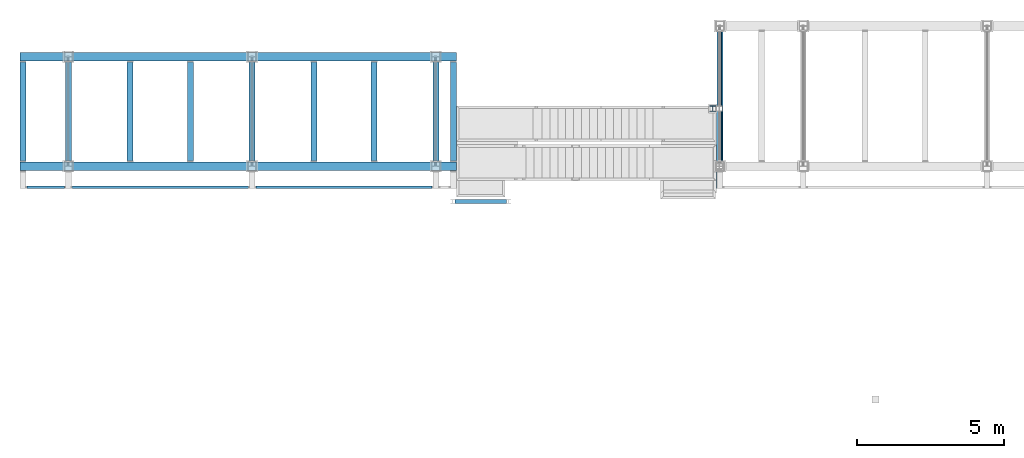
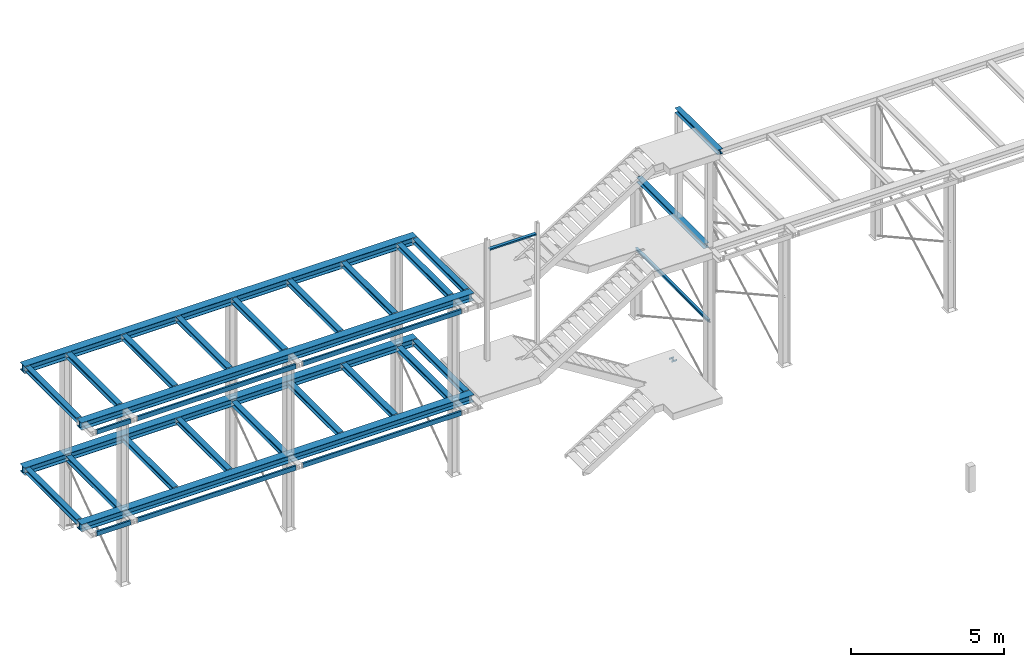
# One storey, part 5 of 24: 32 beams, 1 column.
"""IFC2X3 building model written with IfcOpenShell, lengths in metres."""

from ifc_helpers import new_model, entity, si_unit, converted_unit, derived_unit, frame, origin, place, context, subcontext, project, spatial, polyline, outline, extrude, material, element, save


model = new_model("IFC2X3")

# Units and contexts
model_context = context("Model", 3, precision=1e-05, world=origin())
body_context = subcontext(model_context, "Body", "Model", "MODEL_VIEW")
ifc_project = project(units=[si_unit("LENGTHUNIT", "METRE"), si_unit("AREAUNIT", "SQUARE_METRE"), si_unit("VOLUMEUNIT", "CUBIC_METRE"), si_unit("MASSUNIT", "GRAM", prefix="KILO"), converted_unit("PLANEANGLEUNIT", "DEGREE", entity("IfcPlaneAngleMeasure", 0.0174532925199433), si_unit("PLANEANGLEUNIT", "RADIAN"), dimensions=[0, 0, 0, 0, 0, 0, 0]), derived_unit("THERMALTRANSMITTANCEUNIT", [(si_unit("POWERUNIT", "WATT"), 1), (si_unit("THERMODYNAMICTEMPERATUREUNIT", "KELVIN"), -1), (si_unit("LENGTHUNIT", "METRE"), -2)]), derived_unit("VOLUMETRICFLOWRATEUNIT", [(si_unit("LENGTHUNIT", "METRE"), 3), (converted_unit("TIMEUNIT", "hour", entity("IfcTimeMeasure", 3600.0), si_unit("TIMEUNIT", "SECOND"), dimensions=[0, 0, 1, 0, 0, 0, 0]), -1), (si_unit("LENGTHUNIT", "METRE"), -1)])], contexts=[model_context])

# Site, building, storey
site_placement = place(None, origin())
site = spatial("IfcSite", under=ifc_project, at=site_placement, Name="TWP_Speiseverteilzentrum SBW VZ II", CompositionType="ELEMENT")
building_placement = place(site_placement, origin())
building = spatial("IfcBuilding", under=site, at=building_placement, Name="Speiseverteilzentrum SBW VZ II", CompositionType="ELEMENT")
storey_placement = place(building_placement, frame((0.0, 0.0, 0.6957)))
storey = spatial("IfcBuildingStorey", under=building, at=storey_placement, Name="EG_Technik_FFB", CompositionType="ELEMENT", Elevation=0.6957)

# Column
ifc_material_1 = material(Name="S235")
column_placement = place(storey_placement, frame((69.5187031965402, 89.5299999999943, 0.6647), z_axis=(0.0, 0.0, 1.0), x_axis=(-1.0, 2.44929359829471e-16, 0.0)))
element("IfcColumn", 1, at=column_placement, inside=storey, material=ifc_material_1, Name="Rahmenstiel", context=body_context, shape_type="SweptSolid", body=[
    extrude(outline(polyline([(-0.1, 0.095), (-0.1, 0.085), (-0.00325000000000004, 0.085), (-0.00325000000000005, -0.085), (-0.1, -0.085), (-0.1, -0.095), (0.1, -0.095), (0.1, -0.085), (0.00324999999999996, -0.085), (0.00324999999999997, 0.085), (0.1, 0.085), (0.1, 0.095), (-0.1, 0.095)])), frame((0.1, 0.095, 0.0), z_axis=(0.0, 0.0, 1.0), x_axis=(1.0, 0.0, 0.0)), (0.0, 0.0, 1.0), 0.0713934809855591),
])

# Beams
ifc_material_2 = material(Name="S235")
beam_1_placement = place(storey_placement, frame((69.6637031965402, 87.4792499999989, 3.35), z_axis=(0.0, 0.0, 1.0), x_axis=(1.0, -2.44929359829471e-16, 0.0)))
element("IfcBeam", 2, at=beam_1_placement, inside=storey, material=ifc_material_2, Name="Zwischenriegel", context=body_context, shape_type="SweptSolid", body=[
    extrude(outline(polyline([(-0.05, 0.048), (-0.05, 0.04), (-0.0025, 0.04), (-0.00250000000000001, -0.0399999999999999), (-0.05, -0.0399999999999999), (-0.05, -0.048), (0.05, -0.048), (0.05, -0.0399999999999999), (0.00249999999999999, -0.0399999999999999), (0.0025, 0.04), (0.05, 0.04), (0.05, 0.048), (-0.05, 0.048)])), frame((0.0, 0.0, 0.0), z_axis=(0.0, 1.0, 0.0), x_axis=(-1.0, 0.0, 0.0)), (0.0, 0.0, 1.0), 4.76649999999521),
])
ifc_material_3 = material(Name="S235")
beam_2_placement = place(storey_placement, frame((69.6437031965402, 86.7249999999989, 10.56), z_axis=(0.0, 0.0, 1.0), x_axis=(1.0, -1.22464679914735e-16, 0.0)))
element("IfcBeam", 3, at=beam_2_placement, inside=storey, material=ifc_material_3, Name="Rahmenriegel", context=body_context, shape_type="SweptSolid", body=[
    extrude(outline(polyline([(-0.1, 0.095), (-0.1, 0.085), (-0.00325000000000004, 0.085), (-0.00325000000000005, -0.085), (-0.1, -0.085), (-0.1, -0.095), (0.1, -0.095), (0.1, -0.085), (0.00324999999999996, -0.085), (0.00324999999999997, 0.085), (0.1, 0.085), (0.1, 0.095), (-0.1, 0.095)])), frame((0.0, 0.0, 0.0), z_axis=(0.0, 1.0, 0.0), x_axis=(-1.0, 0.0, 0.0)), (0.0, 0.0, 1.0), 2.80499999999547),
])
ifc_material_4 = material(Name="S235")
beam_3_placement = place(storey_placement, frame((55.85, 87.6549999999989, 3.535), z_axis=(0.0, 0.0, 1.0), x_axis=(1.0, -1.22464679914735e-16, 0.0)))
element("IfcBeam", 4, at=beam_3_placement, inside=storey, material=ifc_material_4, Name="Nebenträger", context=body_context, shape_type="SweptSolid", body=[
    extrude(outline(polyline([(-0.1, 0.095), (-0.1, 0.085), (-0.00325000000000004, 0.085), (-0.00325000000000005, -0.085), (-0.1, -0.085), (-0.1, -0.095), (0.1, -0.095), (0.1, -0.085), (0.00324999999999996, -0.085), (0.00324999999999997, 0.085), (0.1, 0.085), (0.1, 0.095), (-0.1, 0.095)])), frame((0.0, 0.0, 0.0), z_axis=(0.0, 1.0, 0.0), x_axis=(-1.0, 0.0, 0.0)), (0.0, 0.0, 1.0), 3.36499999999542),
])
ifc_material_5 = material(Name="S235")
beam_4_placement = place(storey_placement, frame((55.85, 87.6549999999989, 7.595), z_axis=(0.0, 0.0, 1.0), x_axis=(1.0, -1.22464679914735e-16, 0.0)))
element("IfcBeam", 5, at=beam_4_placement, inside=storey, material=ifc_material_5, Name="Nebenträger", context=body_context, shape_type="SweptSolid", body=[
    extrude(outline(polyline([(-0.1, 0.095), (-0.1, 0.085), (-0.00325000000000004, 0.085), (-0.00325000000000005, -0.085), (-0.1, -0.085), (-0.1, -0.095), (0.1, -0.095), (0.1, -0.085), (0.00324999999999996, -0.085), (0.00324999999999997, 0.085), (0.1, 0.085), (0.1, 0.095), (-0.1, 0.095)])), frame((0.0, 0.0, 0.0), z_axis=(0.0, 1.0, 0.0), x_axis=(-1.0, 0.0, 0.0)), (0.0, 0.0, 1.0), 3.36499999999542),
])
ifc_material_6 = material(Name="S235")
beam_5_placement = place(storey_placement, frame((57.9, 87.6549999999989, 3.535), z_axis=(0.0, 0.0, 1.0), x_axis=(1.0, -1.22464679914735e-16, 0.0)))
element("IfcBeam", 6, at=beam_5_placement, inside=storey, material=ifc_material_6, Name="Nebenträger", context=body_context, shape_type="SweptSolid", body=[
    extrude(outline(polyline([(-0.1, 0.095), (-0.1, 0.085), (-0.00325000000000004, 0.085), (-0.00325000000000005, -0.085), (-0.1, -0.085), (-0.1, -0.095), (0.1, -0.095), (0.1, -0.085), (0.00324999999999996, -0.085), (0.00324999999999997, 0.085), (0.1, 0.085), (0.1, 0.095), (-0.1, 0.095)])), frame((0.0, 0.0, 0.0), z_axis=(0.0, 1.0, 0.0), x_axis=(-1.0, 0.0, 0.0)), (0.0, 0.0, 1.0), 3.36499999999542),
])
ifc_material_7 = material(Name="S235")
beam_6_placement = place(storey_placement, frame((57.9, 87.6549999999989, 7.595), z_axis=(0.0, 0.0, 1.0), x_axis=(1.0, -1.22464679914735e-16, 0.0)))
element("IfcBeam", 7, at=beam_6_placement, inside=storey, material=ifc_material_7, Name="Nebenträger", context=body_context, shape_type="SweptSolid", body=[
    extrude(outline(polyline([(-0.1, 0.095), (-0.1, 0.085), (-0.00325000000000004, 0.085), (-0.00325000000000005, -0.085), (-0.1, -0.085), (-0.1, -0.095), (0.1, -0.095), (0.1, -0.085), (0.00324999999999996, -0.085), (0.00324999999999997, 0.085), (0.1, 0.085), (0.1, 0.095), (-0.1, 0.095)])), frame((0.0, 0.0, 0.0), z_axis=(0.0, 1.0, 0.0), x_axis=(-1.0, 0.0, 0.0)), (0.0, 0.0, 1.0), 3.36499999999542),
])
ifc_material_8 = material(Name="S235")
beam_7_placement = place(storey_placement, frame((49.6, 87.6549999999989, 3.535), z_axis=(0.0, 0.0, 1.0), x_axis=(1.0, -1.22464679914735e-16, 0.0)))
element("IfcBeam", 8, at=beam_7_placement, inside=storey, material=ifc_material_8, Name="Nebenträger", context=body_context, shape_type="SweptSolid", body=[
    extrude(outline(polyline([(-0.1, 0.095), (-0.1, 0.085), (-0.00325000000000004, 0.085), (-0.00325000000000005, -0.085), (-0.1, -0.085), (-0.1, -0.095), (0.1, -0.095), (0.1, -0.085), (0.00324999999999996, -0.085), (0.00324999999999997, 0.085), (0.1, 0.085), (0.1, 0.095), (-0.1, 0.095)])), frame((0.0, 0.0, 0.0), z_axis=(0.0, 1.0, 0.0), x_axis=(-1.0, 0.0, 0.0)), (0.0, 0.0, 1.0), 3.36499999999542),
])
ifc_material_9 = material(Name="S235")
beam_8_placement = place(storey_placement, frame((49.6, 87.6549999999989, 7.595), z_axis=(0.0, 0.0, 1.0), x_axis=(1.0, -1.22464679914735e-16, 0.0)))
element("IfcBeam", 9, at=beam_8_placement, inside=storey, material=ifc_material_9, Name="Nebenträger", context=body_context, shape_type="SweptSolid", body=[
    extrude(outline(polyline([(-0.1, 0.095), (-0.1, 0.085), (-0.00325000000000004, 0.085), (-0.00325000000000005, -0.085), (-0.1, -0.085), (-0.1, -0.095), (0.1, -0.095), (0.1, -0.085), (0.00324999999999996, -0.085), (0.00324999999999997, 0.085), (0.1, 0.085), (0.1, 0.095), (-0.1, 0.095)])), frame((0.0, 0.0, 0.0), z_axis=(0.0, 1.0, 0.0), x_axis=(-1.0, 0.0, 0.0)), (0.0, 0.0, 1.0), 3.36499999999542),
])
ifc_material_10 = material(Name="S235")
beam_9_placement = place(storey_placement, frame((51.65, 87.6549999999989, 3.535), z_axis=(0.0, 0.0, 1.0), x_axis=(1.0, -1.22464679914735e-16, 0.0)))
element("IfcBeam", 10, at=beam_9_placement, inside=storey, material=ifc_material_10, Name="Nebenträger", context=body_context, shape_type="SweptSolid", body=[
    extrude(outline(polyline([(-0.1, 0.095), (-0.1, 0.085), (-0.00325000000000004, 0.085), (-0.00325000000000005, -0.085), (-0.1, -0.085), (-0.1, -0.095), (0.1, -0.095), (0.1, -0.085), (0.00324999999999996, -0.085), (0.00324999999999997, 0.085), (0.1, 0.085), (0.1, 0.095), (-0.1, 0.095)])), frame((0.0, 0.0, 0.0), z_axis=(0.0, 1.0, 0.0), x_axis=(-1.0, 0.0, 0.0)), (0.0, 0.0, 1.0), 3.36499999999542),
])
ifc_material_11 = material(Name="S235")
beam_10_placement = place(storey_placement, frame((51.65, 87.6549999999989, 7.595), z_axis=(0.0, 0.0, 1.0), x_axis=(1.0, -1.22464679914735e-16, 0.0)))
element("IfcBeam", 11, at=beam_10_placement, inside=storey, material=ifc_material_11, Name="Nebenträger", context=body_context, shape_type="SweptSolid", body=[
    extrude(outline(polyline([(-0.1, 0.095), (-0.1, 0.085), (-0.00325000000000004, 0.085), (-0.00325000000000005, -0.085), (-0.1, -0.085), (-0.1, -0.095), (0.1, -0.095), (0.1, -0.085), (0.00324999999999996, -0.085), (0.00324999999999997, 0.085), (0.1, 0.085), (0.1, 0.095), (-0.1, 0.095)])), frame((0.0, 0.0, 0.0), z_axis=(0.0, 1.0, 0.0), x_axis=(-1.0, 0.0, 0.0)), (0.0, 0.0, 1.0), 3.36499999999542),
])
ifc_material_12 = material(Name="S235")
beam_11_placement = place(storey_placement, frame((53.62, 86.7448924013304, 7.6), z_axis=(0.0, 0.0, 1.0), x_axis=(0.0, 1.0, 0.0)))
element("IfcBeam", 12, at=beam_11_placement, inside=storey, material=ifc_material_12, Name="Nebenträger", context=body_context, shape_type="SweptSolid", body=[
    extrude(outline(polyline([(0.0198924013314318, -0.0899999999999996), (0.0198924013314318, 0.0900000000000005), (-0.0501075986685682, 0.0900000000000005), (-0.0501075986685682, 0.0814800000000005), (0.0118924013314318, 0.0765200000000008), (0.0118924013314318, -0.0765199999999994), (-0.0501075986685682, -0.0814799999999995), (-0.0501075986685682, -0.0899999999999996), (0.0198924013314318, -0.0899999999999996)])), frame((0.0, 0.0, 0.0), z_axis=(0.0, 1.0, 0.0), x_axis=(-1.0, 0.0, 0.0)), (0.0, 0.0, 1.0), 5.98999999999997),
])
ifc_material_13 = material(Name="S235")
beam_12_placement = place(storey_placement, frame((53.62, 86.7448924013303, 3.54), z_axis=(0.0, 0.0, 1.0), x_axis=(0.0, 1.0, 0.0)))
element("IfcBeam", 13, at=beam_12_placement, inside=storey, material=ifc_material_13, Name="Nebenträger", context=body_context, shape_type="SweptSolid", body=[
    extrude(outline(polyline([(0.0198924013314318, -0.0899999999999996), (0.0198924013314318, 0.0900000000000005), (-0.0501075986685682, 0.0900000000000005), (-0.0501075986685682, 0.0814800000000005), (0.0118924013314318, 0.0765200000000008), (0.0118924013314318, -0.0765199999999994), (-0.0501075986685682, -0.0814799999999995), (-0.0501075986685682, -0.0899999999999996), (0.0198924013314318, -0.0899999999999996)])), frame((0.0, 0.0, 0.0), z_axis=(0.0, 1.0, 0.0), x_axis=(-1.0, 0.0, 0.0)), (0.0, 0.0, 1.0), 5.98999999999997),
])
ifc_material_14 = material(Name="S235")
beam_13_placement = place(storey_placement, frame((59.8699999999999, 86.7448924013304, 7.6), z_axis=(0.0, 0.0, 1.0), x_axis=(0.0, 1.0, 0.0)))
element("IfcBeam", 14, at=beam_13_placement, inside=storey, material=ifc_material_14, Name="Nebenträger", context=body_context, shape_type="SweptSolid", body=[
    extrude(outline(polyline([(0.0198924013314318, -0.0899999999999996), (0.0198924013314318, 0.0900000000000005), (-0.0501075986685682, 0.0900000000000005), (-0.0501075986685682, 0.0814800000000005), (0.0118924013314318, 0.0765200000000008), (0.0118924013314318, -0.0765199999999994), (-0.0501075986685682, -0.0814799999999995), (-0.0501075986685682, -0.0899999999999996), (0.0198924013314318, -0.0899999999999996)])), frame((0.0, 0.0, 0.0), z_axis=(0.0, 1.0, 0.0), x_axis=(-1.0, 0.0, 0.0)), (0.0, 0.0, 1.0), 5.98999999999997),
])
ifc_material_15 = material(Name="S235")
beam_14_placement = place(storey_placement, frame((59.8699999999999, 86.7448924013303, 3.54), z_axis=(0.0, 0.0, 1.0), x_axis=(0.0, 1.0, 0.0)))
element("IfcBeam", 15, at=beam_14_placement, inside=storey, material=ifc_material_15, Name="Nebenträger", context=body_context, shape_type="SweptSolid", body=[
    extrude(outline(polyline([(0.0198924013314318, -0.0899999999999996), (0.0198924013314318, 0.0900000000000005), (-0.0501075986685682, 0.0900000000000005), (-0.0501075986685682, 0.0814800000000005), (0.0118924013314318, 0.0765200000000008), (0.0118924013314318, -0.0765199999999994), (-0.0501075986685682, -0.0814799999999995), (-0.0501075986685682, -0.0899999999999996), (0.0198924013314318, -0.0899999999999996)])), frame((0.0, 0.0, 0.0), z_axis=(0.0, 1.0, 0.0), x_axis=(-1.0, 0.0, 0.0)), (0.0, 0.0, 1.0), 5.98999999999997),
])
ifc_material_16 = material(Name="S235")
beam_15_placement = place(storey_placement, frame((45.855, 91.1999999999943, 7.545), z_axis=(0.0, 0.0, 1.0), x_axis=(-1.22464679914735e-16, -1.0, 0.0)))
element("IfcBeam", 16, at=beam_15_placement, inside=storey, material=ifc_material_16, Name="Rahmenriegel", context=body_context, shape_type="SweptSolid", body=[
    extrude(outline(polyline([(-0.15, 0.145), (-0.15, 0.131), (-0.00424999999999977, 0.131), (-0.00424999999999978, -0.131), (-0.15, -0.131), (-0.15, -0.145), (0.15, -0.145), (0.15, -0.131), (0.00425000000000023, -0.131), (0.00425000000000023, 0.131), (0.15, 0.131), (0.15, 0.145), (-0.15, 0.145)])), frame((0.0, 0.0, 0.0), z_axis=(0.0, 1.0, 0.0), x_axis=(-1.0, 0.0, 0.0)), (0.0, 0.0, 1.0), 14.84),
])
ifc_material_17 = material(Name="S235")
beam_16_placement = place(storey_placement, frame((45.855, 87.4749999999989, 7.545), z_axis=(0.0, 0.0, 1.0), x_axis=(-1.22464679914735e-16, -1.0, 0.0)))
element("IfcBeam", 17, at=beam_16_placement, inside=storey, material=ifc_material_17, Name="Rahmenriegel", context=body_context, shape_type="SweptSolid", body=[
    extrude(outline(polyline([(-0.15, 0.145), (-0.15, 0.131), (-0.00424999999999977, 0.131), (-0.00424999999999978, -0.131), (-0.15, -0.131), (-0.15, -0.145), (0.15, -0.145), (0.15, -0.131), (0.00425000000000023, -0.131), (0.00425000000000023, 0.131), (0.15, 0.131), (0.15, 0.145), (-0.15, 0.145)])), frame((0.0, 0.0, 0.0), z_axis=(0.0, 1.0, 0.0), x_axis=(-1.0, 0.0, 0.0)), (0.0, 0.0, 1.0), 14.84),
])
ifc_material_18 = material(Name="S235")
beam_17_placement = place(storey_placement, frame((45.855, 87.4749999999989, 3.485), z_axis=(0.0, 0.0, 1.0), x_axis=(-1.22464679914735e-16, -1.0, 0.0)))
element("IfcBeam", 18, at=beam_17_placement, inside=storey, material=ifc_material_18, Name="Rahmenriegel", context=body_context, shape_type="SweptSolid", body=[
    extrude(outline(polyline([(-0.15, 0.145), (-0.15, 0.131), (-0.00424999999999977, 0.131), (-0.00424999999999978, -0.131), (-0.15, -0.131), (-0.15, -0.145), (0.15, -0.145), (0.15, -0.131), (0.00425000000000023, -0.131), (0.00425000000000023, 0.131), (0.15, 0.131), (0.15, 0.145), (-0.15, 0.145)])), frame((0.0, 0.0, 0.0), z_axis=(0.0, 1.0, 0.0), x_axis=(-1.0, 0.0, 0.0)), (0.0, 0.0, 1.0), 14.84),
])
ifc_material_19 = material(Name="S235")
beam_18_placement = place(storey_placement, frame((45.855, 91.1999999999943, 3.485), z_axis=(0.0, 0.0, 1.0), x_axis=(-1.22464679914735e-16, -1.0, 0.0)))
element("IfcBeam", 19, at=beam_18_placement, inside=storey, material=ifc_material_19, Name="Rahmenriegel", context=body_context, shape_type="SweptSolid", body=[
    extrude(outline(polyline([(-0.15, 0.145), (-0.15, 0.131), (-0.00424999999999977, 0.131), (-0.00424999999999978, -0.131), (-0.15, -0.131), (-0.15, -0.145), (0.15, -0.145), (0.15, -0.131), (0.00425000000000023, -0.131), (0.00425000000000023, 0.131), (0.15, 0.131), (0.15, 0.145), (-0.15, 0.145)])), frame((0.0, 0.0, 0.0), z_axis=(0.0, 1.0, 0.0), x_axis=(-1.0, 0.0, 0.0)), (0.0, 0.0, 1.0), 14.84),
])
ifc_material_20 = material(Name="S235")
beam_19_placement = place(storey_placement, frame((60.0, 87.6549999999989, 7.595), z_axis=(0.0, 0.0, 1.0), x_axis=(1.0, -2.44929359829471e-16, 0.0)))
element("IfcBeam", 20, at=beam_19_placement, inside=storey, material=ifc_material_20, Name="Rahmenriegel", context=body_context, shape_type="SweptSolid", body=[
    extrude(outline(polyline([(-0.1, 0.095), (-0.1, 0.085), (-0.00325000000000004, 0.085), (-0.00325000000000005, -0.085), (-0.1, -0.085), (-0.1, -0.095), (0.1, -0.095), (0.1, -0.085), (0.00324999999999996, -0.085), (0.00324999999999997, 0.085), (0.1, 0.085), (0.1, 0.095), (-0.1, 0.095)])), frame((0.0, 0.0, 0.0), z_axis=(0.0, 1.0, 0.0), x_axis=(-1.0, 0.0, 0.0)), (0.0, 0.0, 1.0), 3.36499999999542),
])
ifc_material_21 = material(Name="S235")
beam_20_placement = place(storey_placement, frame((60.0, 87.6549999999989, 3.485), z_axis=(0.0, 0.0, 1.0), x_axis=(1.0, -2.44929359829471e-16, 0.0)))
element("IfcBeam", 21, at=beam_20_placement, inside=storey, material=ifc_material_21, Name="Rahmenriegel", context=body_context, shape_type="SweptSolid", body=[
    extrude(outline(polyline([(-0.1, 0.095), (-0.1, 0.085), (-0.00325000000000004, 0.085), (-0.00325000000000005, -0.085), (-0.1, -0.085), (-0.1, -0.095), (0.1, -0.095), (0.1, -0.085), (0.00324999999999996, -0.085), (0.00324999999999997, 0.085), (0.1, 0.085), (0.1, 0.095), (-0.1, 0.095)])), frame((0.0, 0.0, 0.0), z_axis=(0.0, 1.0, 0.0), x_axis=(-1.0, 0.0, 0.0)), (0.0, 0.0, 1.0), 3.36499999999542),
])
ifc_material_22 = material(Name="S235")
beam_21_placement = place(storey_placement, frame((53.75, 87.6549999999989, 7.595), z_axis=(0.0, 0.0, 1.0), x_axis=(1.0, -2.44929359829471e-16, 0.0)))
element("IfcBeam", 22, at=beam_21_placement, inside=storey, material=ifc_material_22, Name="Rahmenriegel", context=body_context, shape_type="SweptSolid", body=[
    extrude(outline(polyline([(-0.1, 0.095), (-0.1, 0.085), (-0.00325000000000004, 0.085), (-0.00325000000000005, -0.085), (-0.1, -0.085), (-0.1, -0.095), (0.1, -0.095), (0.1, -0.085), (0.00324999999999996, -0.085), (0.00324999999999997, 0.085), (0.1, 0.085), (0.1, 0.095), (-0.1, 0.095)])), frame((0.0, 0.0, 0.0), z_axis=(0.0, 1.0, 0.0), x_axis=(-1.0, 0.0, 0.0)), (0.0, 0.0, 1.0), 3.36499999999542),
])
ifc_material_23 = material(Name="S235")
beam_22_placement = place(storey_placement, frame((53.75, 87.6549999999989, 3.485), z_axis=(0.0, 0.0, 1.0), x_axis=(1.0, -2.44929359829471e-16, 0.0)))
element("IfcBeam", 23, at=beam_22_placement, inside=storey, material=ifc_material_23, Name="Rahmenriegel", context=body_context, shape_type="SweptSolid", body=[
    extrude(outline(polyline([(-0.1, 0.095), (-0.1, 0.085), (-0.00325000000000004, 0.085), (-0.00325000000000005, -0.085), (-0.1, -0.085), (-0.1, -0.095), (0.1, -0.095), (0.1, -0.085), (0.00324999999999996, -0.085), (0.00324999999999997, 0.085), (0.1, 0.085), (0.1, 0.095), (-0.1, 0.095)])), frame((0.0, 0.0, 0.0), z_axis=(0.0, 1.0, 0.0), x_axis=(-1.0, 0.0, 0.0)), (0.0, 0.0, 1.0), 3.36499999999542),
])
ifc_material_24 = material(Name="S235")
beam_23_placement = place(storey_placement, frame((47.5, 87.6549999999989, 7.595), z_axis=(0.0, 0.0, 1.0), x_axis=(1.0, -2.44929359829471e-16, 0.0)))
element("IfcBeam", 24, at=beam_23_placement, inside=storey, material=ifc_material_24, Name="Rahmenriegel", context=body_context, shape_type="SweptSolid", body=[
    extrude(outline(polyline([(-0.1, 0.095), (-0.1, 0.085), (-0.00325000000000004, 0.085), (-0.00325000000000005, -0.085), (-0.1, -0.085), (-0.1, -0.095), (0.1, -0.095), (0.1, -0.085), (0.00324999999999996, -0.085), (0.00324999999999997, 0.085), (0.1, 0.085), (0.1, 0.095), (-0.1, 0.095)])), frame((0.0, 0.0, 0.0), z_axis=(0.0, 1.0, 0.0), x_axis=(-1.0, 0.0, 0.0)), (0.0, 0.0, 1.0), 3.36499999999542),
])
ifc_material_25 = material(Name="S235")
beam_24_placement = place(storey_placement, frame((47.5, 87.6549999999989, 3.485), z_axis=(0.0, 0.0, 1.0), x_axis=(1.0, -2.44929359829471e-16, 0.0)))
element("IfcBeam", 25, at=beam_24_placement, inside=storey, material=ifc_material_25, Name="Rahmenriegel", context=body_context, shape_type="SweptSolid", body=[
    extrude(outline(polyline([(-0.1, 0.095), (-0.1, 0.085), (-0.00325000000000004, 0.085), (-0.00325000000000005, -0.085), (-0.1, -0.085), (-0.1, -0.095), (0.1, -0.095), (0.1, -0.085), (0.00324999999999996, -0.085), (0.00324999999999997, 0.085), (0.1, 0.085), (0.1, 0.095), (-0.1, 0.095)])), frame((0.0, 0.0, 0.0), z_axis=(0.0, 1.0, 0.0), x_axis=(-1.0, 0.0, 0.0)), (0.0, 0.0, 1.0), 3.36499999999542),
])
ifc_material_26 = material(Name="S235")
beam_25_placement = place(storey_placement, frame((60.5949999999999, 87.6549999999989, 3.535), z_axis=(0.0, 0.0, 1.0), x_axis=(1.0, -1.22464679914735e-16, 0.0)))
element("IfcBeam", 26, at=beam_25_placement, inside=storey, material=ifc_material_26, Name="Nebenträger", context=body_context, shape_type="SweptSolid", body=[
    extrude(outline(polyline([(-0.1, 0.095), (-0.1, 0.085), (-0.00325000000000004, 0.085), (-0.00325000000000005, -0.085), (-0.1, -0.085), (-0.1, -0.095), (0.1, -0.095), (0.1, -0.085), (0.00324999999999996, -0.085), (0.00324999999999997, 0.085), (0.1, 0.085), (0.1, 0.095), (-0.1, 0.095)])), frame((0.0, 0.0, 0.0), z_axis=(0.0, 1.0, 0.0), x_axis=(-1.0, 0.0, 0.0)), (0.0, 0.0, 1.0), 3.36499999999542),
])
ifc_material_27 = material(Name="S235")
beam_26_placement = place(storey_placement, frame((60.5949999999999, 87.6549999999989, 7.595), z_axis=(0.0, 0.0, 1.0), x_axis=(1.0, -1.22464679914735e-16, 0.0)))
element("IfcBeam", 27, at=beam_26_placement, inside=storey, material=ifc_material_27, Name="Nebenträger", context=body_context, shape_type="SweptSolid", body=[
    extrude(outline(polyline([(-0.1, 0.095), (-0.1, 0.085), (-0.00325000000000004, 0.085), (-0.00325000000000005, -0.085), (-0.1, -0.085), (-0.1, -0.095), (0.1, -0.095), (0.1, -0.085), (0.00324999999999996, -0.085), (0.00324999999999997, 0.085), (0.1, 0.085), (0.1, 0.095), (-0.1, 0.095)])), frame((0.0, 0.0, 0.0), z_axis=(0.0, 1.0, 0.0), x_axis=(-1.0, 0.0, 0.0)), (0.0, 0.0, 1.0), 3.36499999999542),
])
ifc_material_28 = material(Name="S235")
beam_27_placement = place(storey_placement, frame((45.955, 87.6549999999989, 3.535), z_axis=(0.0, 0.0, 1.0), x_axis=(1.0, -1.22464679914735e-16, 0.0)))
element("IfcBeam", 28, at=beam_27_placement, inside=storey, material=ifc_material_28, Name="Nebenträger", context=body_context, shape_type="SweptSolid", body=[
    extrude(outline(polyline([(-0.1, 0.095), (-0.1, 0.085), (-0.00325000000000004, 0.085), (-0.00325000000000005, -0.085), (-0.1, -0.085), (-0.1, -0.095), (0.1, -0.095), (0.1, -0.085), (0.00324999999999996, -0.085), (0.00324999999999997, 0.085), (0.1, 0.085), (0.1, 0.095), (-0.1, 0.095)])), frame((0.0, 0.0, 0.0), z_axis=(0.0, 1.0, 0.0), x_axis=(-1.0, 0.0, 0.0)), (0.0, 0.0, 1.0), 3.36499999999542),
])
ifc_material_29 = material(Name="S235")
beam_28_placement = place(storey_placement, frame((45.955, 87.6549999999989, 7.595), z_axis=(0.0, 0.0, 1.0), x_axis=(1.0, -1.22464679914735e-16, 0.0)))
element("IfcBeam", 29, at=beam_28_placement, inside=storey, material=ifc_material_29, Name="Nebenträger", context=body_context, shape_type="SweptSolid", body=[
    extrude(outline(polyline([(-0.1, 0.095), (-0.1, 0.085), (-0.00325000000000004, 0.085), (-0.00325000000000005, -0.085), (-0.1, -0.085), (-0.1, -0.095), (0.1, -0.095), (0.1, -0.085), (0.00324999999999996, -0.085), (0.00324999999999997, 0.085), (0.1, 0.085), (0.1, 0.095), (-0.1, 0.095)])), frame((0.0, 0.0, 0.0), z_axis=(0.0, 1.0, 0.0), x_axis=(-1.0, 0.0, 0.0)), (0.0, 0.0, 1.0), 3.36499999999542),
])
ifc_material_30 = material(Name="S235")
beam_29_placement = place(storey_placement, frame((47.37, 86.7448924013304, 7.6), z_axis=(0.0, 0.0, 1.0), x_axis=(0.0, 1.0, 0.0)))
element("IfcBeam", 30, at=beam_29_placement, inside=storey, material=ifc_material_30, Name="Nebenträger", context=body_context, shape_type="SweptSolid", body=[
    extrude(outline(polyline([(0.0198924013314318, -0.0899999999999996), (0.0198924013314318, 0.0900000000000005), (-0.0501075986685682, 0.0900000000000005), (-0.0501075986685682, 0.0814800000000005), (0.0118924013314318, 0.0765200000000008), (0.0118924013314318, -0.0765199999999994), (-0.0501075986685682, -0.0814799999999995), (-0.0501075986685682, -0.0899999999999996), (0.0198924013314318, -0.0899999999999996)])), frame((0.0, 0.0, 0.0), z_axis=(0.0, 1.0, 0.0), x_axis=(-1.0, 0.0, 0.0)), (0.0, 0.0, 1.0), 1.285),
])
ifc_material_31 = material(Name="S235")
beam_30_placement = place(storey_placement, frame((47.37, 86.7448924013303, 3.54), z_axis=(0.0, 0.0, 1.0), x_axis=(0.0, 1.0, 0.0)))
element("IfcBeam", 31, at=beam_30_placement, inside=storey, material=ifc_material_31, Name="Nebenträger", context=body_context, shape_type="SweptSolid", body=[
    extrude(outline(polyline([(0.0198924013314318, -0.0899999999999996), (0.0198924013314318, 0.0900000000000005), (-0.0501075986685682, 0.0900000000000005), (-0.0501075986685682, 0.0814800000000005), (0.0118924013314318, 0.0765200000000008), (0.0118924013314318, -0.0765199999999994), (-0.0501075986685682, -0.0814799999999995), (-0.0501075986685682, -0.0899999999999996), (0.0198924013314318, -0.0899999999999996)])), frame((0.0, 0.0, 0.0), z_axis=(0.0, 1.0, 0.0), x_axis=(-1.0, 0.0, 0.0)), (0.0, 0.0, 1.0), 1.285),
])
ifc_material_32 = material(Name="S235")
beam_31_placement = place(storey_placement, frame((69.6637031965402, 87.6549999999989, 6.24), z_axis=(0.0, 0.0, 1.0), x_axis=(1.0, -2.44929359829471e-16, 0.0)))
element("IfcBeam", 32, at=beam_31_placement, inside=storey, material=ifc_material_32, Name="Rahmenriegel", context=body_context, shape_type="SweptSolid", body=[
    extrude(outline(polyline([(-0.1, 0.095), (-0.1, 0.085), (-0.00325000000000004, 0.085), (-0.00325000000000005, -0.085), (-0.1, -0.085), (-0.1, -0.095), (0.1, -0.095), (0.1, -0.085), (0.00324999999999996, -0.085), (0.00324999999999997, 0.085), (0.1, 0.085), (0.1, 0.095), (-0.1, 0.095)])), frame((0.0, 0.0, 0.0), z_axis=(0.0, 1.0, 0.0), x_axis=(-1.0, 0.0, 0.0)), (0.0, 0.0, 1.0), 4.4149999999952),
])
ifc_material_33 = material(Name="S235")
beam_32_placement = place(storey_placement, frame((60.6450017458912, 86.2759999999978, 10.1111528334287), z_axis=(0.0, 0.0, 1.0), x_axis=(0.0, -1.0, 0.0)))
element("IfcBeam", 33, at=beam_32_placement, inside=storey, material=ifc_material_33, Name="Nebenträger", context=body_context, shape_type="SweptSolid", body=[
    extrude(outline(polyline([(-0.04936, 0.00934716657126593), (0.04936, 0.0093471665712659), (0.0531999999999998, -0.0386528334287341), (0.06, -0.0386528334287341), (0.06, 0.0163471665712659), (-0.06, 0.0163471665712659), (-0.06, -0.0386528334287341), (-0.0531999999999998, -0.0386528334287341), (-0.04936, 0.00934716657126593)])), frame((0.0, 0.0, 0.0), z_axis=(0.0, 1.0, 0.0), x_axis=(-1.0, 0.0, 0.0)), (0.0, 0.0, 1.0), 1.76),
])

save(model, "model.ifc")
